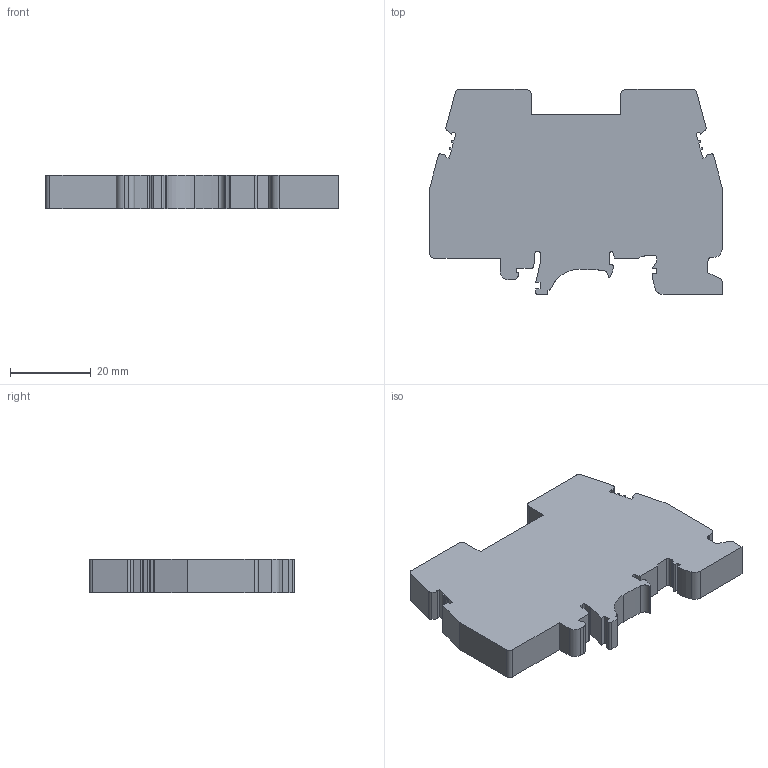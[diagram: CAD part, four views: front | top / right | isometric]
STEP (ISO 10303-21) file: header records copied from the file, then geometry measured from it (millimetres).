
FILE_DESCRIPTION(/* description */ (''),/* implementation_level */ '2;1');
FILE_NAME(/* name */ 'UT1-6S.stp',/* time_stamp */ '2022-12-20T17:00:41+08:00',/* author */ (''),/* organization */ (''),/* preprocessor_version */ 'ST-DEVELOPER v16.7',/* originating_system */ 'SIEMENS PLM Software NX 12.0',/* authorisation */ '');
FILE_SCHEMA (('AUTOMOTIVE_DESIGN { 1 0 10303 214 3 1 1 1 }'));
Length unit declared in the file: millimetre
Products named in the file (1): _model1
Bounding box: 72.4 x 50.8 x 8.2 mm (x, y, z)
Volume: 24069 mm3; surface area: 8390.5 mm2
Topology: 1 solids, 1 shells, 112 faces, 330 edges, 220 vertices
Faces by surface type: plane 74, cylinder 38
Entity records: 3755 total; most frequent: CARTESIAN_POINT 666, ORIENTED_EDGE 660, DIRECTION 631, EDGE_CURVE 330, LINE 253, VECTOR 253, VERTEX_POINT 220, AXIS2_PLACEMENT_3D 189
